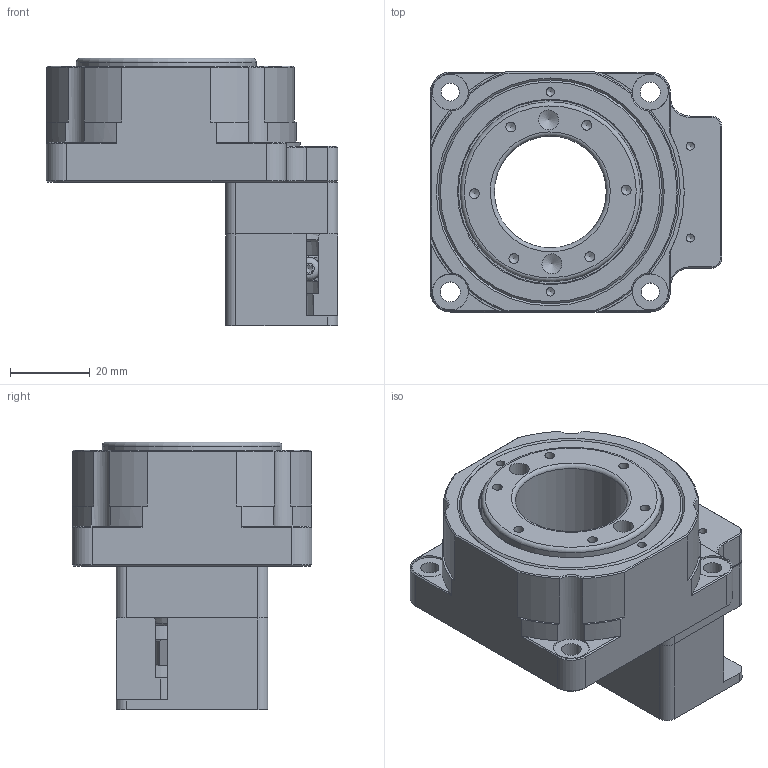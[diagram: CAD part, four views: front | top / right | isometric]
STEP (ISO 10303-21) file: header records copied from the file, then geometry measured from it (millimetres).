
FILE_DESCRIPTION((''),'2;1');
FILE_NAME('D:\유성\액추에이터\작성도면\액추에이터 3d\60\SHA060SV018.stp','2014-05-22T13:21:55',('nagyu'),(''),'Autodesk Inventor 2013','Autodesk Inventor 2013','');
FILE_SCHEMA(('AUTOMOTIVE_DESIGN { 1 0 10303 214 1 1 1 1 }'));
Length unit declared in the file: millimetre
Products named in the file (1): SHA060SV018_Shrinkwrap_1
Bounding box: 72.86 x 60 x 67 mm (x, y, z)
Volume: 90965.7 mm3; surface area: 44409.9 mm2
Topology: 2 solids, 10 shells, 1572 faces, 4529 edges, 2967 vertices
Faces by surface type: bspline 570, cone 451, cylinder 321, plane 178, torus 43, sphere 9
Full cylindrical faces by diameter (mm): 1.5 x2, 2.013 x2, 2.1 x2, 2.459 x14, 3 x4, 3.4 x9, 3.946 x1, 4.5 x2, 4.8 x1, 5 x7, 5.2 x1, 5.5 x2, 5.7 x1, 6 x6, 8.6 x1, 9 x4, 11.5 x1, 11.9 x2, 12 x3, 13.5 x1, 14.5 x1, 15.912 x2, 20 x2, 20.088 x2, 22 x2, 24 x3, 28 x2, 35 x1, 37.5 x1, 44 x1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
Entity records: 62265 total; most frequent: CARTESIAN_POINT 25080, ORIENTED_EDGE 8576, DIRECTION 5924, EDGE_CURVE 4288, VERTEX_POINT 2892, AXIS2_PLACEMENT_3D 2807, B_SPLINE_CURVE_WITH_KNOTS 2135, EDGE_LOOP 1800
